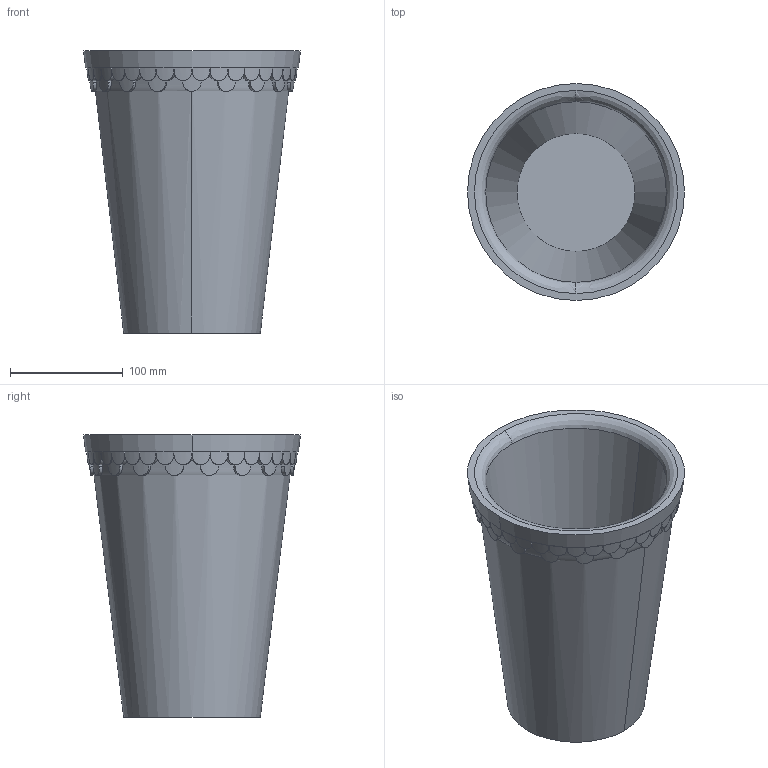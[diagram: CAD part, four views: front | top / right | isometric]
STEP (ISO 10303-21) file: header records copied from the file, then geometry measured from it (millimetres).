
FILE_DESCRIPTION(/* description */ (''),/* implementation_level */ '2;1');
FILE_NAME(/* name */ '15',/* time_stamp */ '2026-06-18T12:39:18+02:00',/* author */ (''),/* organization */ (''),/* preprocessor_version */ 'ST-DEVELOPER v19.2',/* originating_system */ 'Rhino 8.32',/* authorisation */ '');
FILE_SCHEMA (('CONFIG_CONTROL_DESIGN'));
Length unit declared in the file: millimetre
Products named in the file (2): Document; Københavner vase Ø18 v15
Bounding box: 192.31 x 192.31 x 250 mm (x, y, z)
Volume: 1270684.7 mm3; surface area: 255949.5 mm2
Topology: 1 solids, 1 shells, 1044 faces, 2968 edges, 1973 vertices
Faces by surface type: bspline 613, plane 355, cylinder 76
Entity records: 41811 total; most frequent: CARTESIAN_POINT 22761, ORIENTED_EDGE 5936, EDGE_CURVE 2968, B_SPLINE_CURVE_WITH_KNOTS 2647, VERTEX_POINT 1973, EDGE_LOOP 1091, ADVANCED_FACE 1044, FACE_OUTER_BOUND 1044
